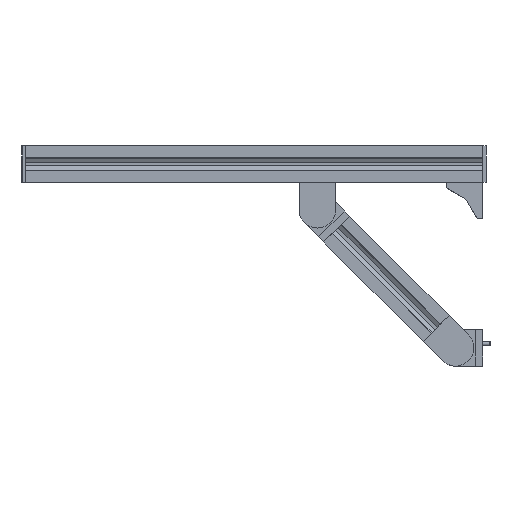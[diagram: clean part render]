
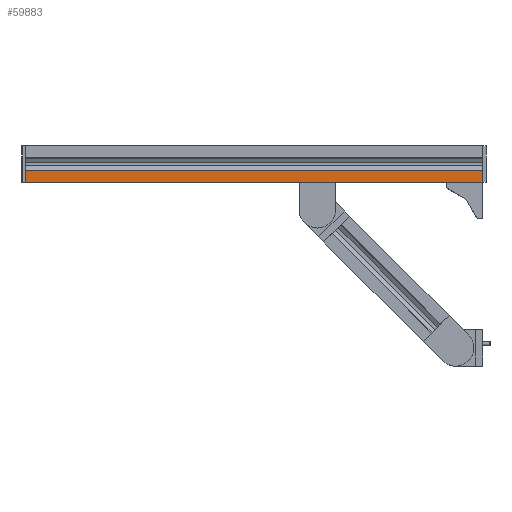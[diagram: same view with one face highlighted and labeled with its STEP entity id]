
A CAD part, front view. The second image highlights one B-rep face of the part: STEP entity #59883.
In plain terms, the highlighted planar face has unit normal (0, -1, 0).
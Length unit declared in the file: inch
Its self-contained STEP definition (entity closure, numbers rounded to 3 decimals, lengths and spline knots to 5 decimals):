
#1671 = ORIENTED_EDGE ( 'NONE', *, *, #36277, .T. ) ;
#1785 = VECTOR ( 'NONE', #13551, 39.37008 ) ;
#3965 = DIRECTION ( 'NONE',  ( -1., 0., 0. ) ) ;
#4045 = EDGE_LOOP ( 'NONE', ( #29358, #51588, #52855, #1671 ) ) ;
#4365 = CARTESIAN_POINT ( 'NONE',  ( 80.37657, -56.55302, 73.60432 ) ) ;
#5380 = CARTESIAN_POINT ( 'NONE',  ( 60.69153, -56.55302, 73.34842 ) ) ;
#7239 = LINE ( 'NONE', #53990, #56629 ) ;
#7747 = PLANE ( 'NONE',  #12663 ) ;
#8144 = DIRECTION ( 'NONE',  ( -1., 0., 0. ) ) ;
#11494 = CARTESIAN_POINT ( 'NONE',  ( 80.37657, -56.55302, 73.86023 ) ) ;
#12663 = AXIS2_PLACEMENT_3D ( 'NONE', #4365, #13816, #13520 ) ;
#13520 = DIRECTION ( 'NONE',  ( 0., 0., -1. ) ) ;
#13551 = DIRECTION ( 'NONE',  ( 0., 0., -1. ) ) ;
#13816 = DIRECTION ( 'NONE',  ( 0., -1., 0. ) ) ;
#15071 = CARTESIAN_POINT ( 'NONE',  ( 60.69153, -56.55302, 73.86023 ) ) ;
#15355 = LINE ( 'NONE', #15071, #17903 ) ;
#17903 = VECTOR ( 'NONE', #34198, 39.37008 ) ;
#20367 = CARTESIAN_POINT ( 'NONE',  ( 60.69153, -56.55302, 73.86023 ) ) ;
#21639 = EDGE_CURVE ( 'NONE', #42489, #52615, #7239, .T. ) ;
#27067 = EDGE_CURVE ( 'NONE', #52615, #28512, #15355, .T. ) ;
#28512 = VERTEX_POINT ( 'NONE', #20367 ) ;
#29358 = ORIENTED_EDGE ( 'NONE', *, *, #27067, .F. ) ;
#34198 = DIRECTION ( 'NONE',  ( 0., 0., 1. ) ) ;
#34990 = VERTEX_POINT ( 'NONE', #11494 ) ;
#36277 = EDGE_CURVE ( 'NONE', #34990, #28512, #45515, .T. ) ;
#39335 = EDGE_CURVE ( 'NONE', #34990, #42489, #50846, .T. ) ;
#42489 = VERTEX_POINT ( 'NONE', #56180 ) ;
#44904 = CARTESIAN_POINT ( 'NONE',  ( 80.37657, -56.55302, 73.86023 ) ) ;
#45515 = LINE ( 'NONE', #44904, #45613 ) ;
#45613 = VECTOR ( 'NONE', #3965, 39.37008 ) ;
#45631 = CARTESIAN_POINT ( 'NONE',  ( 80.37657, -56.55302, 73.86023 ) ) ;
#50846 = LINE ( 'NONE', #45631, #1785 ) ;
#51588 = ORIENTED_EDGE ( 'NONE', *, *, #21639, .F. ) ;
#52615 = VERTEX_POINT ( 'NONE', #5380 ) ;
#52855 = ORIENTED_EDGE ( 'NONE', *, *, #39335, .F. ) ;
#53990 = CARTESIAN_POINT ( 'NONE',  ( 80.37657, -56.55302, 73.34842 ) ) ;
#56180 = CARTESIAN_POINT ( 'NONE',  ( 80.37657, -56.55302, 73.34842 ) ) ;
#56629 = VECTOR ( 'NONE', #8144, 39.37008 ) ;
#58425 = FACE_OUTER_BOUND ( 'NONE', #4045, .T. ) ;
#59883 = ADVANCED_FACE ( 'NONE', ( #58425 ), #7747, .T. ) ;
